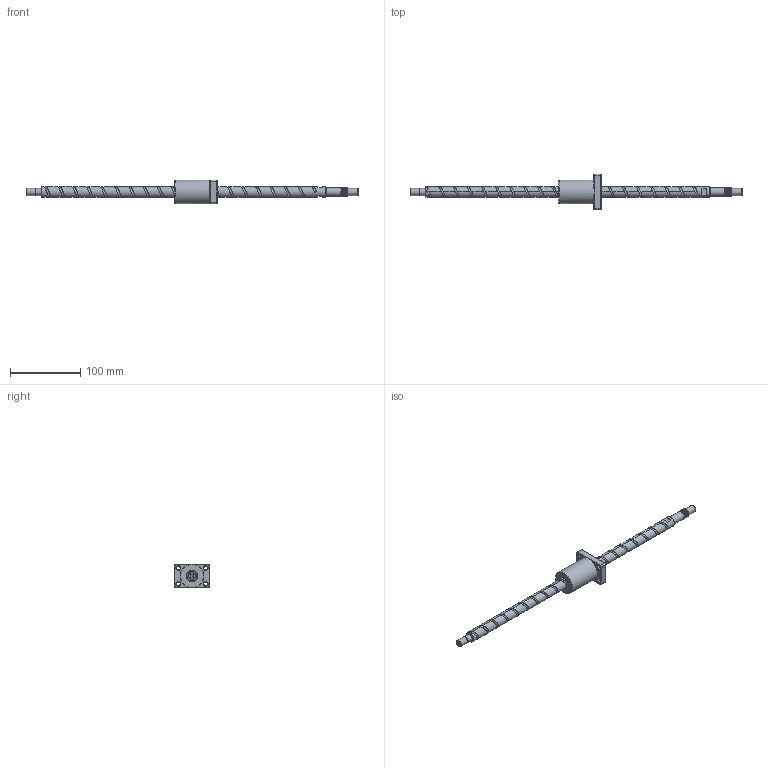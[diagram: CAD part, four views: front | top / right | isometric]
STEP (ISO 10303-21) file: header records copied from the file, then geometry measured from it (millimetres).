
FILE_DESCRIPTION (( 'STEP AP203' ), '1' );
FILE_NAME ('XSVR01520A1DGC5-471-P1.step', '2024-06-03T05:37:04', ( '' ), ( '' ), 'SwSTEP 2.0', 'SolidWorks 2022', '' );
FILE_SCHEMA (( 'CONFIG_CONTROL_DESIGN' ));
Length unit declared in the file: millimetre
Products named in the file (1): XSVR01520A1DGC5-471-P1
Bounding box: 471 x 50 x 34 mm (x, y, z)
Volume: 120577.1 mm3; surface area: 36927.6 mm2
Topology: 2 solids, 2 shells, 150 faces, 404 edges, 264 vertices
Faces by surface type: cylinder 73, plane 43, cone 15, bspline 10, torus 9
Full cylindrical faces by diameter (mm): 4 x1, 4.2 x15, 5 x6, 5.5 x4, 9.5 x4, 9.6 x1, 10 x3, 12 x9, 15 x20, 17 x1, 34 x1
Entity records: 15450 total; most frequent: CARTESIAN_POINT 13322, ORIENTED_EDGE 410, DIRECTION 391, EDGE_CURVE 205, AXIS2_PLACEMENT_3D 168, EDGE_LOOP 153, VERTEX_POINT 150, FACE_OUTER_BOUND 120
